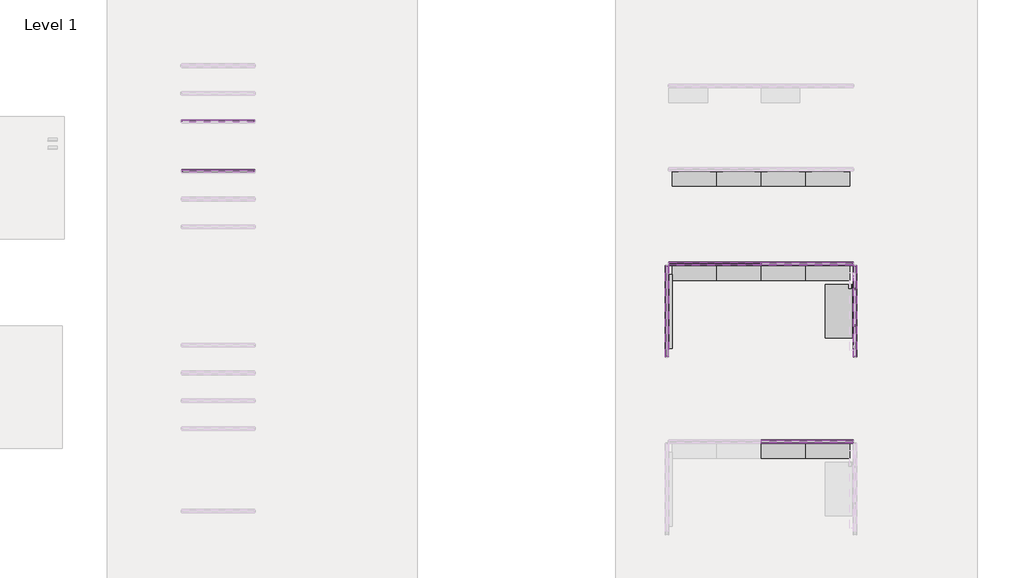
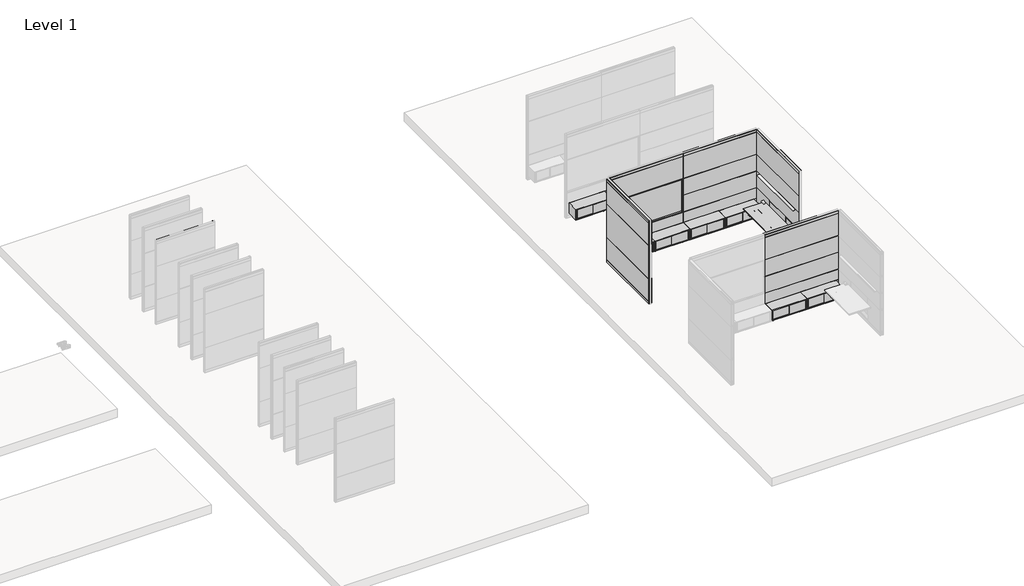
# One storey, part 11 of 13: 98 proxies, 12 furniture elements.
"""IFC4 building model written with IfcOpenShell, lengths in millimetres."""

from ifc_helpers import new_model, si_unit, origin, place, context, project, spatial, transform, mapped, element, save
from components import fascia_teknion_ceiling_and_base_ffb1_afe21305, fascia_teknion_ceiling_and_base_ffb1_896a0c16, fascia_teknion_ceiling_and_base_ffb1_9837481b, fascia_teknion_ceiling_and_base_ffb1_82e00885, fascia_teknion_ceiling_and_base_ffb1_6d2ad91a, frame_teknion_horizontal_rail_fkk_86cbbdfc, frame_teknion_horizontal_rail_fkk_8a89803d, frame_teknion_horizontal_rail_fkk_60f78dd7, frame_teknion_landscape_vertical_post_b621eeab, glass_fascia_b5f6f7ce, level_i_94c8ecd2, level_i_45b542d7, level_i_b17bdb42, level_i_0fad34de, level_i_c2499e2a, level_i_bottom_886b868d, level_i_top_2ca9f02e, level_ii_0c7391c9, level_ii_f53a0955, level_ii_e725a0b5, level_ii_bottom_2a449907, level_ii_bottom_6d1693ca, level_ii_bottom_ba8b9d30, level_iii_1ffc0a55, level_iii_4f8121dc, level_iii_edf6dfbd, level_iii_156669a2, level_iii_9491f67b, furniture_abd386d2, aluminum_shelf_4e7f8018, furniture_c8d8c331

model = new_model("IFC4")

# Units and contexts
model_context = context("Model", 3, world=origin())
ifc_project = project(units=[si_unit("LENGTHUNIT", "METRE", prefix="MILLI")], contexts=[model_context])

# Site, building, storey
site = spatial("IfcSite", under=ifc_project)
building = spatial("IfcBuilding", under=site)
storey = spatial("IfcBuildingStorey", under=building, Name="Level 1", Elevation=0.0)

# Proxies
placement = place(None, origin())
fascia_teknion_ceiling_and_base_ffb1_shape = fascia_teknion_ceiling_and_base_ffb1_afe21305(model_context)
element("IfcBuildingElementProxy", 1, Name="Fascia-Teknion-Ceiling_and_Base : FFB1", ObjectType="Fascia-Teknion-Ceiling_and_Base : FFB1", at=placement, inside=storey, context=model_context, shape_type="MappedRepresentation", body=[
    mapped(fascia_teknion_ceiling_and_base_ffb1_shape, transform((7469.8447863, 16032.4566297, 15.875), x_axis=(1.0, 0.0, 0.0), y_axis=(0.0, 1.0, 0.0), z_axis=(0.0, 0.0, 1.0))),
])
fascia_teknion_ceiling_and_base_ffb1_2_shape = fascia_teknion_ceiling_and_base_ffb1_896a0c16(model_context)
element("IfcBuildingElementProxy", 2, Name="Fascia-Teknion-Ceiling_and_Base : FFB1", ObjectType="Fascia-Teknion-Ceiling_and_Base : FFB1", at=placement, inside=storey, context=model_context, shape_type="MappedRepresentation", body=[
    mapped(fascia_teknion_ceiling_and_base_ffb1_2_shape, transform((21074.4289087, 13499.4866412, 15.875), x_axis=(1.0, 0.0, 0.0), y_axis=(0.0, 1.0, 0.0), z_axis=(0.0, 0.0, 1.0))),
])
element("IfcBuildingElementProxy", 3, Name="Fascia-Teknion-Ceiling_and_Base : FFB1", ObjectType="Fascia-Teknion-Ceiling_and_Base : FFB1", at=placement, inside=storey, context=model_context, shape_type="MappedRepresentation", body=[
    mapped(fascia_teknion_ceiling_and_base_ffb1_2_shape, transform((23600.439065, 13499.4866412, 15.875), x_axis=(1.0, 0.0, 0.0), y_axis=(0.0, 1.0, 0.0), z_axis=(0.0, 0.0, 1.0))),
])
element("IfcBuildingElementProxy", 4, Name="Fascia-Teknion-Ceiling_and_Base : FFB1", ObjectType="Fascia-Teknion-Ceiling_and_Base : FFB1", at=placement, inside=storey, context=model_context, shape_type="MappedRepresentation", body=[
    mapped(fascia_teknion_ceiling_and_base_ffb1_2_shape, transform((23600.439065, 8622.6866412, 15.875), x_axis=(1.0, 0.0, 0.0), y_axis=(0.0, 1.0, 0.0), z_axis=(0.0, 0.0, 1.0))),
])
fascia_teknion_ceiling_and_base_ffb1_3_shape = fascia_teknion_ceiling_and_base_ffb1_9837481b(model_context)
element("IfcBuildingElementProxy", 5, Name="Fascia-Teknion-Ceiling_and_Base : FFB1", ObjectType="Fascia-Teknion-Ceiling_and_Base : FFB1", at=placement, inside=storey, context=model_context, shape_type="MappedRepresentation", body=[
    mapped(fascia_teknion_ceiling_and_base_ffb1_3_shape, transform((21074.4289087, 13437.5106412, 15.875), x_axis=(1.0, 0.0, 0.0), y_axis=(0.0, 1.0, 0.0), z_axis=(0.0, 0.0, 1.0))),
])
element("IfcBuildingElementProxy", 6, Name="Fascia-Teknion-Ceiling_and_Base : FFB1", ObjectType="Fascia-Teknion-Ceiling_and_Base : FFB1", at=placement, inside=storey, context=model_context, shape_type="MappedRepresentation", body=[
    mapped(fascia_teknion_ceiling_and_base_ffb1_3_shape, transform((23600.439065, 13437.5106412, 15.875), x_axis=(1.0, 0.0, 0.0), y_axis=(0.0, 1.0, 0.0), z_axis=(0.0, 0.0, 1.0))),
])
element("IfcBuildingElementProxy", 7, Name="Fascia-Teknion-Ceiling_and_Base : FFB1", ObjectType="Fascia-Teknion-Ceiling_and_Base : FFB1", at=placement, inside=storey, context=model_context, shape_type="MappedRepresentation", body=[
    mapped(fascia_teknion_ceiling_and_base_ffb1_3_shape, transform((23600.439065, 8560.7106412, 15.875), x_axis=(1.0, 0.0, 0.0), y_axis=(0.0, 1.0, 0.0), z_axis=(0.0, 0.0, 1.0))),
])
fascia_teknion_ceiling_and_base_ffb1_4_shape = fascia_teknion_ceiling_and_base_ffb1_82e00885(model_context)
element("IfcBuildingElementProxy", 8, Name="Fascia-Teknion-Ceiling_and_Base : FFB1", ObjectType="Fascia-Teknion-Ceiling_and_Base : FFB1", at=placement, inside=storey, context=model_context, shape_type="MappedRepresentation", body=[
    mapped(fascia_teknion_ceiling_and_base_ffb1_4_shape, transform((24945.930591, 12160.9986407, 15.875), x_axis=(0.0, -1.0, 0.0), y_axis=(1.0, 0.0, 0.0), z_axis=(0.0, 0.0, 1.0))),
])
element("IfcBuildingElementProxy", 9, Name="Fascia-Teknion-Ceiling_and_Base : FFB1", ObjectType="Fascia-Teknion-Ceiling_and_Base : FFB1", at=placement, inside=storey, context=model_context, shape_type="MappedRepresentation", body=[
    mapped(fascia_teknion_ceiling_and_base_ffb1_4_shape, transform((19728.9373827, 12160.9986407, 15.875), x_axis=(0.0, 1.0, 0.0), y_axis=(-1.0, 0.0, 0.0), z_axis=(0.0, 0.0, 1.0))),
])
fascia_teknion_ceiling_and_base_ffb1_5_shape = fascia_teknion_ceiling_and_base_ffb1_6d2ad91a(model_context)
element("IfcBuildingElementProxy", 10, Name="Fascia-Teknion-Ceiling_and_Base : FFB1", ObjectType="Fascia-Teknion-Ceiling_and_Base : FFB1", at=placement, inside=storey, context=model_context, shape_type="MappedRepresentation", body=[
    mapped(fascia_teknion_ceiling_and_base_ffb1_5_shape, transform((24883.954591, 12160.9986407, 15.875), x_axis=(0.0, -1.0, 0.0), y_axis=(1.0, 0.0, 0.0), z_axis=(0.0, 0.0, 1.0))),
])
element("IfcBuildingElementProxy", 11, Name="Fascia-Teknion-Ceiling_and_Base : FFB1", ObjectType="Fascia-Teknion-Ceiling_and_Base : FFB1", at=placement, inside=storey, context=model_context, shape_type="MappedRepresentation", body=[
    mapped(fascia_teknion_ceiling_and_base_ffb1_5_shape, transform((19790.9133827, 12160.9986407, 15.875), x_axis=(0.0, 1.0, 0.0), y_axis=(-1.0, 0.0, 0.0), z_axis=(0.0, 0.0, 1.0))),
])
element("IfcBuildingElementProxy", 12, Name="Fascia-Teknion-Ceiling_and_Base : FFC", ObjectType="Fascia-Teknion-Ceiling_and_Base : FFC", at=placement, inside=storey, context=model_context, shape_type="MappedRepresentation", body=[
    mapped(fascia_teknion_ceiling_and_base_ffb1_shape, transform((7465.0427987, 17403.0599099, 2950.845), x_axis=(1.0, 0.0, 0.0), y_axis=(0.0, 1.0, 0.0), z_axis=(0.0, 0.0, 1.0))),
])
element("IfcBuildingElementProxy", 13, Name="Fascia-Teknion-Ceiling_and_Base : FFC", ObjectType="Fascia-Teknion-Ceiling_and_Base : FFC", at=placement, inside=storey, context=model_context, shape_type="MappedRepresentation", body=[
    mapped(fascia_teknion_ceiling_and_base_ffb1_shape, transform((7469.8447863, 16032.4566297, 2950.845), x_axis=(1.0, 0.0, 0.0), y_axis=(0.0, 1.0, 0.0), z_axis=(0.0, 0.0, 1.0))),
])
element("IfcBuildingElementProxy", 14, Name="Fascia-Teknion-Ceiling_and_Base : FFC", ObjectType="Fascia-Teknion-Ceiling_and_Base : FFC", at=placement, inside=storey, context=model_context, shape_type="MappedRepresentation", body=[
    mapped(fascia_teknion_ceiling_and_base_ffb1_2_shape, transform((21074.4289087, 13499.4866412, 2950.845), x_axis=(1.0, 0.0, 0.0), y_axis=(0.0, 1.0, 0.0), z_axis=(0.0, 0.0, 1.0))),
])
element("IfcBuildingElementProxy", 15, Name="Fascia-Teknion-Ceiling_and_Base : FFC", ObjectType="Fascia-Teknion-Ceiling_and_Base : FFC", at=placement, inside=storey, context=model_context, shape_type="MappedRepresentation", body=[
    mapped(fascia_teknion_ceiling_and_base_ffb1_2_shape, transform((23600.439065, 13499.4866412, 2950.845), x_axis=(1.0, 0.0, 0.0), y_axis=(0.0, 1.0, 0.0), z_axis=(0.0, 0.0, 1.0))),
])
element("IfcBuildingElementProxy", 16, Name="Fascia-Teknion-Ceiling_and_Base : FFC", ObjectType="Fascia-Teknion-Ceiling_and_Base : FFC", at=placement, inside=storey, context=model_context, shape_type="MappedRepresentation", body=[
    mapped(fascia_teknion_ceiling_and_base_ffb1_2_shape, transform((23600.439065, 8622.6866412, 2950.845), x_axis=(1.0, 0.0, 0.0), y_axis=(0.0, 1.0, 0.0), z_axis=(0.0, 0.0, 1.0))),
])
element("IfcBuildingElementProxy", 17, Name="Fascia-Teknion-Ceiling_and_Base : FFC", ObjectType="Fascia-Teknion-Ceiling_and_Base : FFC", at=placement, inside=storey, context=model_context, shape_type="MappedRepresentation", body=[
    mapped(fascia_teknion_ceiling_and_base_ffb1_3_shape, transform((21074.4289087, 13437.5106412, 2950.845), x_axis=(1.0, 0.0, 0.0), y_axis=(0.0, 1.0, 0.0), z_axis=(0.0, 0.0, 1.0))),
])
element("IfcBuildingElementProxy", 18, Name="Fascia-Teknion-Ceiling_and_Base : FFC", ObjectType="Fascia-Teknion-Ceiling_and_Base : FFC", at=placement, inside=storey, context=model_context, shape_type="MappedRepresentation", body=[
    mapped(fascia_teknion_ceiling_and_base_ffb1_3_shape, transform((23600.439065, 13437.5106412, 2950.845), x_axis=(1.0, 0.0, 0.0), y_axis=(0.0, 1.0, 0.0), z_axis=(0.0, 0.0, 1.0))),
])
element("IfcBuildingElementProxy", 19, Name="Fascia-Teknion-Ceiling_and_Base : FFC", ObjectType="Fascia-Teknion-Ceiling_and_Base : FFC", at=placement, inside=storey, context=model_context, shape_type="MappedRepresentation", body=[
    mapped(fascia_teknion_ceiling_and_base_ffb1_3_shape, transform((23600.439065, 8560.7106412, 2950.845), x_axis=(1.0, 0.0, 0.0), y_axis=(0.0, 1.0, 0.0), z_axis=(0.0, 0.0, 1.0))),
])
element("IfcBuildingElementProxy", 20, Name="Fascia-Teknion-Ceiling_and_Base : FFC", ObjectType="Fascia-Teknion-Ceiling_and_Base : FFC", at=placement, inside=storey, context=model_context, shape_type="MappedRepresentation", body=[
    mapped(fascia_teknion_ceiling_and_base_ffb1_4_shape, transform((24945.930591, 12160.9986407, 2950.845), x_axis=(0.0, -1.0, 0.0), y_axis=(1.0, 0.0, 0.0), z_axis=(0.0, 0.0, 1.0))),
])
element("IfcBuildingElementProxy", 21, Name="Fascia-Teknion-Ceiling_and_Base : FFC", ObjectType="Fascia-Teknion-Ceiling_and_Base : FFC", at=placement, inside=storey, context=model_context, shape_type="MappedRepresentation", body=[
    mapped(fascia_teknion_ceiling_and_base_ffb1_4_shape, transform((19728.9373827, 12160.9986407, 2950.845), x_axis=(0.0, 1.0, 0.0), y_axis=(-1.0, 0.0, 0.0), z_axis=(0.0, 0.0, 1.0))),
])
element("IfcBuildingElementProxy", 22, Name="Fascia-Teknion-Ceiling_and_Base : FFC", ObjectType="Fascia-Teknion-Ceiling_and_Base : FFC", at=placement, inside=storey, context=model_context, shape_type="MappedRepresentation", body=[
    mapped(fascia_teknion_ceiling_and_base_ffb1_5_shape, transform((24883.954591, 12160.9986407, 2950.845), x_axis=(0.0, -1.0, 0.0), y_axis=(1.0, 0.0, 0.0), z_axis=(0.0, 0.0, 1.0))),
])
element("IfcBuildingElementProxy", 23, Name="Fascia-Teknion-Ceiling_and_Base : FFC", ObjectType="Fascia-Teknion-Ceiling_and_Base : FFC", at=placement, inside=storey, context=model_context, shape_type="MappedRepresentation", body=[
    mapped(fascia_teknion_ceiling_and_base_ffb1_5_shape, transform((19790.9133827, 12160.9986407, 2950.845), x_axis=(0.0, 1.0, 0.0), y_axis=(-1.0, 0.0, 0.0), z_axis=(0.0, 0.0, 1.0))),
])
frame_teknion_horizontal_rail_fkk_shape = frame_teknion_horizontal_rail_fkk_86cbbdfc(model_context)
element("IfcBuildingElementProxy", 24, Name="Frame-Teknion-Horizontal_Rail : FKK", ObjectType="Frame-Teknion-Horizontal_Rail : FKK", at=placement, inside=storey, context=model_context, shape_type="MappedRepresentation", body=[
    mapped(frame_teknion_horizontal_rail_fkk_shape, transform((7465.0427987, 17372.0719099, 100.4514438), x_axis=(1.0, 0.0, 0.0), y_axis=(0.0, 1.0, 0.0), z_axis=(0.0, 0.0, 1.0))),
])
element("IfcBuildingElementProxy", 25, Name="Frame-Teknion-Horizontal_Rail : FKK", ObjectType="Frame-Teknion-Horizontal_Rail : FKK", at=placement, inside=storey, context=model_context, shape_type="MappedRepresentation", body=[
    mapped(frame_teknion_horizontal_rail_fkk_shape, transform((7465.0427987, 17372.0719099, 2947.5374437), x_axis=(1.0, 0.0, 0.0), y_axis=(0.0, 1.0, 0.0), z_axis=(0.0, 0.0, 1.0))),
])
element("IfcBuildingElementProxy", 26, Name="Frame-Teknion-Horizontal_Rail : FKK", ObjectType="Frame-Teknion-Horizontal_Rail : FKK", at=placement, inside=storey, context=model_context, shape_type="MappedRepresentation", body=[
    mapped(frame_teknion_horizontal_rail_fkk_shape, transform((7469.8447863, 16001.4686297, 100.4514438), x_axis=(1.0, 0.0, 0.0), y_axis=(0.0, 1.0, 0.0), z_axis=(0.0, 0.0, 1.0))),
])
element("IfcBuildingElementProxy", 27, Name="Frame-Teknion-Horizontal_Rail : FKK", ObjectType="Frame-Teknion-Horizontal_Rail : FKK", at=placement, inside=storey, context=model_context, shape_type="MappedRepresentation", body=[
    mapped(frame_teknion_horizontal_rail_fkk_shape, transform((7469.8447863, 16001.4686297, 2947.5374437), x_axis=(1.0, 0.0, 0.0), y_axis=(0.0, 1.0, 0.0), z_axis=(0.0, 0.0, 1.0))),
])
frame_teknion_horizontal_rail_fkk_2_shape = frame_teknion_horizontal_rail_fkk_8a89803d(model_context)
element("IfcBuildingElementProxy", 28, Name="Frame-Teknion-Horizontal_Rail : FKK", ObjectType="Frame-Teknion-Horizontal_Rail : FKK", at=placement, inside=storey, context=model_context, shape_type="MappedRepresentation", body=[
    mapped(frame_teknion_horizontal_rail_fkk_2_shape, transform((21074.4289087, 13468.4986412, 100.4514438), x_axis=(1.0, 0.0, 0.0), y_axis=(0.0, 1.0, 0.0), z_axis=(0.0, 0.0, 1.0))),
])
element("IfcBuildingElementProxy", 29, Name="Frame-Teknion-Horizontal_Rail : FKK", ObjectType="Frame-Teknion-Horizontal_Rail : FKK", at=placement, inside=storey, context=model_context, shape_type="MappedRepresentation", body=[
    mapped(frame_teknion_horizontal_rail_fkk_2_shape, transform((21074.4289087, 13468.4986412, 2947.5374437), x_axis=(1.0, 0.0, 0.0), y_axis=(0.0, 1.0, 0.0), z_axis=(0.0, 0.0, 1.0))),
])
element("IfcBuildingElementProxy", 30, Name="Frame-Teknion-Horizontal_Rail : FKK", ObjectType="Frame-Teknion-Horizontal_Rail : FKK", at=placement, inside=storey, context=model_context, shape_type="MappedRepresentation", body=[
    mapped(frame_teknion_horizontal_rail_fkk_2_shape, transform((23600.439065, 13468.4986412, 100.4514438), x_axis=(1.0, 0.0, 0.0), y_axis=(0.0, 1.0, 0.0), z_axis=(0.0, 0.0, 1.0))),
])
element("IfcBuildingElementProxy", 31, Name="Frame-Teknion-Horizontal_Rail : FKK", ObjectType="Frame-Teknion-Horizontal_Rail : FKK", at=placement, inside=storey, context=model_context, shape_type="MappedRepresentation", body=[
    mapped(frame_teknion_horizontal_rail_fkk_2_shape, transform((23600.439065, 13468.4986412, 2947.5374437), x_axis=(1.0, 0.0, 0.0), y_axis=(0.0, 1.0, 0.0), z_axis=(0.0, 0.0, 1.0))),
])
element("IfcBuildingElementProxy", 32, Name="Frame-Teknion-Horizontal_Rail : FKK", ObjectType="Frame-Teknion-Horizontal_Rail : FKK", at=placement, inside=storey, context=model_context, shape_type="MappedRepresentation", body=[
    mapped(frame_teknion_horizontal_rail_fkk_2_shape, transform((23600.439065, 8591.6986412, 100.4514438), x_axis=(1.0, 0.0, 0.0), y_axis=(0.0, 1.0, 0.0), z_axis=(0.0, 0.0, 1.0))),
])
element("IfcBuildingElementProxy", 33, Name="Frame-Teknion-Horizontal_Rail : FKK", ObjectType="Frame-Teknion-Horizontal_Rail : FKK", at=placement, inside=storey, context=model_context, shape_type="MappedRepresentation", body=[
    mapped(frame_teknion_horizontal_rail_fkk_2_shape, transform((23600.439065, 8591.6986412, 2947.5374437), x_axis=(1.0, 0.0, 0.0), y_axis=(0.0, 1.0, 0.0), z_axis=(0.0, 0.0, 1.0))),
])
frame_teknion_horizontal_rail_fkk_3_shape = frame_teknion_horizontal_rail_fkk_60f78dd7(model_context)
element("IfcBuildingElementProxy", 34, Name="Frame-Teknion-Horizontal_Rail : FKK", ObjectType="Frame-Teknion-Horizontal_Rail : FKK", at=placement, inside=storey, context=model_context, shape_type="MappedRepresentation", body=[
    mapped(frame_teknion_horizontal_rail_fkk_3_shape, transform((24914.942591, 12160.9986407, 100.4514438), x_axis=(0.0, -1.0, 0.0), y_axis=(1.0, 0.0, 0.0), z_axis=(0.0, 0.0, 1.0))),
])
element("IfcBuildingElementProxy", 35, Name="Frame-Teknion-Horizontal_Rail : FKK", ObjectType="Frame-Teknion-Horizontal_Rail : FKK", at=placement, inside=storey, context=model_context, shape_type="MappedRepresentation", body=[
    mapped(frame_teknion_horizontal_rail_fkk_3_shape, transform((24914.942591, 12160.9986407, 2947.5374437), x_axis=(0.0, -1.0, 0.0), y_axis=(1.0, 0.0, 0.0), z_axis=(0.0, 0.0, 1.0))),
])
element("IfcBuildingElementProxy", 36, Name="Frame-Teknion-Horizontal_Rail : FKK", ObjectType="Frame-Teknion-Horizontal_Rail : FKK", at=placement, inside=storey, context=model_context, shape_type="MappedRepresentation", body=[
    mapped(frame_teknion_horizontal_rail_fkk_3_shape, transform((19759.9253827, 12160.9986407, 100.4514438), x_axis=(0.0, 1.0, 0.0), y_axis=(-1.0, 0.0, 0.0), z_axis=(0.0, 0.0, 1.0))),
])
element("IfcBuildingElementProxy", 37, Name="Frame-Teknion-Horizontal_Rail : FKK", ObjectType="Frame-Teknion-Horizontal_Rail : FKK", at=placement, inside=storey, context=model_context, shape_type="MappedRepresentation", body=[
    mapped(frame_teknion_horizontal_rail_fkk_3_shape, transform((19759.9253827, 12160.9986407, 2947.5374437), x_axis=(0.0, 1.0, 0.0), y_axis=(-1.0, 0.0, 0.0), z_axis=(0.0, 0.0, 1.0))),
])
element("IfcBuildingElementProxy", 38, Name="Frame-Teknion-Landscape_Horizontal_Rail : FLKH", ObjectType="Frame-Teknion-Landscape_Horizontal_Rail : FLKH", at=placement, inside=storey, context=model_context, shape_type="MappedRepresentation", body=[
    mapped(frame_teknion_horizontal_rail_fkk_shape, transform((7465.0427987, 17372.0719099, 917.575), x_axis=(1.0, 0.0, 0.0), y_axis=(0.0, 1.0, 0.0), z_axis=(0.0, 0.0, 1.0))),
])
element("IfcBuildingElementProxy", 39, Name="Frame-Teknion-Landscape_Horizontal_Rail : FLKH", ObjectType="Frame-Teknion-Landscape_Horizontal_Rail : FLKH", at=placement, inside=storey, context=model_context, shape_type="MappedRepresentation", body=[
    mapped(frame_teknion_horizontal_rail_fkk_shape, transform((7465.0427987, 17372.0719099, 2136.775), x_axis=(1.0, 0.0, 0.0), y_axis=(0.0, 1.0, 0.0), z_axis=(0.0, 0.0, 1.0))),
])
element("IfcBuildingElementProxy", 40, Name="Frame-Teknion-Landscape_Horizontal_Rail : FLKH", ObjectType="Frame-Teknion-Landscape_Horizontal_Rail : FLKH", at=placement, inside=storey, context=model_context, shape_type="MappedRepresentation", body=[
    mapped(frame_teknion_horizontal_rail_fkk_shape, transform((7469.8447863, 16001.4686297, 917.575), x_axis=(1.0, 0.0, 0.0), y_axis=(0.0, 1.0, 0.0), z_axis=(0.0, 0.0, 1.0))),
])
element("IfcBuildingElementProxy", 41, Name="Frame-Teknion-Landscape_Horizontal_Rail : FLKH", ObjectType="Frame-Teknion-Landscape_Horizontal_Rail : FLKH", at=placement, inside=storey, context=model_context, shape_type="MappedRepresentation", body=[
    mapped(frame_teknion_horizontal_rail_fkk_shape, transform((7469.8447863, 16001.4686297, 2136.775), x_axis=(1.0, 0.0, 0.0), y_axis=(0.0, 1.0, 0.0), z_axis=(0.0, 0.0, 1.0))),
])
element("IfcBuildingElementProxy", 42, Name="Frame-Teknion-Landscape_Horizontal_Rail : FLKH", ObjectType="Frame-Teknion-Landscape_Horizontal_Rail : FLKH", at=placement, inside=storey, context=model_context, shape_type="MappedRepresentation", body=[
    mapped(frame_teknion_horizontal_rail_fkk_2_shape, transform((21074.4289087, 13468.4986412, 917.575), x_axis=(1.0, 0.0, 0.0), y_axis=(0.0, 1.0, 0.0), z_axis=(0.0, 0.0, 1.0))),
])
element("IfcBuildingElementProxy", 43, Name="Frame-Teknion-Landscape_Horizontal_Rail : FLKH", ObjectType="Frame-Teknion-Landscape_Horizontal_Rail : FLKH", at=placement, inside=storey, context=model_context, shape_type="MappedRepresentation", body=[
    mapped(frame_teknion_horizontal_rail_fkk_2_shape, transform((21074.4289087, 13468.4986412, 2136.775), x_axis=(1.0, 0.0, 0.0), y_axis=(0.0, 1.0, 0.0), z_axis=(0.0, 0.0, 1.0))),
])
element("IfcBuildingElementProxy", 44, Name="Frame-Teknion-Landscape_Horizontal_Rail : FLKH", ObjectType="Frame-Teknion-Landscape_Horizontal_Rail : FLKH", at=placement, inside=storey, context=model_context, shape_type="MappedRepresentation", body=[
    mapped(frame_teknion_horizontal_rail_fkk_2_shape, transform((23600.439065, 13468.4986412, 917.575), x_axis=(1.0, 0.0, 0.0), y_axis=(0.0, 1.0, 0.0), z_axis=(0.0, 0.0, 1.0))),
])
element("IfcBuildingElementProxy", 45, Name="Frame-Teknion-Landscape_Horizontal_Rail : FLKH", ObjectType="Frame-Teknion-Landscape_Horizontal_Rail : FLKH", at=placement, inside=storey, context=model_context, shape_type="MappedRepresentation", body=[
    mapped(frame_teknion_horizontal_rail_fkk_2_shape, transform((23600.439065, 13468.4986412, 2136.775), x_axis=(1.0, 0.0, 0.0), y_axis=(0.0, 1.0, 0.0), z_axis=(0.0, 0.0, 1.0))),
])
element("IfcBuildingElementProxy", 46, Name="Frame-Teknion-Landscape_Horizontal_Rail : FLKH", ObjectType="Frame-Teknion-Landscape_Horizontal_Rail : FLKH", at=placement, inside=storey, context=model_context, shape_type="MappedRepresentation", body=[
    mapped(frame_teknion_horizontal_rail_fkk_2_shape, transform((21074.4289087, 13468.4986412, 536.575), x_axis=(1.0, 0.0, 0.0), y_axis=(0.0, 1.0, 0.0), z_axis=(0.0, 0.0, 1.0))),
])
element("IfcBuildingElementProxy", 47, Name="Frame-Teknion-Landscape_Horizontal_Rail : FLKH", ObjectType="Frame-Teknion-Landscape_Horizontal_Rail : FLKH", at=placement, inside=storey, context=model_context, shape_type="MappedRepresentation", body=[
    mapped(frame_teknion_horizontal_rail_fkk_2_shape, transform((23600.439065, 13468.4986412, 536.575), x_axis=(1.0, 0.0, 0.0), y_axis=(0.0, 1.0, 0.0), z_axis=(0.0, 0.0, 1.0))),
])
element("IfcBuildingElementProxy", 48, Name="Frame-Teknion-Landscape_Horizontal_Rail : FLKH", ObjectType="Frame-Teknion-Landscape_Horizontal_Rail : FLKH", at=placement, inside=storey, context=model_context, shape_type="MappedRepresentation", body=[
    mapped(frame_teknion_horizontal_rail_fkk_2_shape, transform((23600.439065, 8591.6986412, 536.575), x_axis=(1.0, 0.0, 0.0), y_axis=(0.0, 1.0, 0.0), z_axis=(0.0, 0.0, 1.0))),
])
element("IfcBuildingElementProxy", 49, Name="Frame-Teknion-Landscape_Horizontal_Rail : FLKH", ObjectType="Frame-Teknion-Landscape_Horizontal_Rail : FLKH", at=placement, inside=storey, context=model_context, shape_type="MappedRepresentation", body=[
    mapped(frame_teknion_horizontal_rail_fkk_2_shape, transform((23600.439065, 13468.4986412, 1527.175), x_axis=(1.0, 0.0, 0.0), y_axis=(0.0, 1.0, 0.0), z_axis=(0.0, 0.0, 1.0))),
])
element("IfcBuildingElementProxy", 50, Name="Frame-Teknion-Landscape_Horizontal_Rail : FLKH", ObjectType="Frame-Teknion-Landscape_Horizontal_Rail : FLKH", at=placement, inside=storey, context=model_context, shape_type="MappedRepresentation", body=[
    mapped(frame_teknion_horizontal_rail_fkk_2_shape, transform((23600.439065, 8591.6986412, 1527.175), x_axis=(1.0, 0.0, 0.0), y_axis=(0.0, 1.0, 0.0), z_axis=(0.0, 0.0, 1.0))),
])
element("IfcBuildingElementProxy", 51, Name="Frame-Teknion-Landscape_Horizontal_Rail : FLKH", ObjectType="Frame-Teknion-Landscape_Horizontal_Rail : FLKH", at=placement, inside=storey, context=model_context, shape_type="MappedRepresentation", body=[
    mapped(frame_teknion_horizontal_rail_fkk_3_shape, transform((24914.942591, 12160.9986407, 917.575), x_axis=(0.0, -1.0, 0.0), y_axis=(1.0, 0.0, 0.0), z_axis=(0.0, 0.0, 1.0))),
])
element("IfcBuildingElementProxy", 52, Name="Frame-Teknion-Landscape_Horizontal_Rail : FLKH", ObjectType="Frame-Teknion-Landscape_Horizontal_Rail : FLKH", at=placement, inside=storey, context=model_context, shape_type="MappedRepresentation", body=[
    mapped(frame_teknion_horizontal_rail_fkk_3_shape, transform((24914.942591, 12160.9986407, 2136.775), x_axis=(0.0, -1.0, 0.0), y_axis=(1.0, 0.0, 0.0), z_axis=(0.0, 0.0, 1.0))),
])
element("IfcBuildingElementProxy", 53, Name="Frame-Teknion-Landscape_Horizontal_Rail : FLKH", ObjectType="Frame-Teknion-Landscape_Horizontal_Rail : FLKH", at=placement, inside=storey, context=model_context, shape_type="MappedRepresentation", body=[
    mapped(frame_teknion_horizontal_rail_fkk_3_shape, transform((19759.9253827, 12160.9986407, 917.575), x_axis=(0.0, 1.0, 0.0), y_axis=(-1.0, 0.0, 0.0), z_axis=(0.0, 0.0, 1.0))),
])
element("IfcBuildingElementProxy", 54, Name="Frame-Teknion-Landscape_Horizontal_Rail : FLKH", ObjectType="Frame-Teknion-Landscape_Horizontal_Rail : FLKH", at=placement, inside=storey, context=model_context, shape_type="MappedRepresentation", body=[
    mapped(frame_teknion_horizontal_rail_fkk_3_shape, transform((19759.9253827, 12160.9986407, 2136.775), x_axis=(0.0, 1.0, 0.0), y_axis=(-1.0, 0.0, 0.0), z_axis=(0.0, 0.0, 1.0))),
])
element("IfcBuildingElementProxy", 55, Name="Frame-Teknion-Landscape_Horizontal_Rail : FLKH", ObjectType="Frame-Teknion-Landscape_Horizontal_Rail : FLKH", at=placement, inside=storey, context=model_context, shape_type="MappedRepresentation", body=[
    mapped(frame_teknion_horizontal_rail_fkk_3_shape, transform((24914.942591, 12160.9986407, 1527.175), x_axis=(0.0, -1.0, 0.0), y_axis=(1.0, 0.0, 0.0), z_axis=(0.0, 0.0, 1.0))),
])
frame_teknion_landscape_vertical_post_shape = frame_teknion_landscape_vertical_post_b621eeab(model_context)
element("IfcBuildingElementProxy", 56, Name="Frame-Teknion-Landscape_Vertical_Post : FLKV", ObjectType="Frame-Teknion-Landscape_Vertical_Post : FLKV", at=placement, inside=storey, context=model_context, shape_type="MappedRepresentation", body=[
    mapped(frame_teknion_landscape_vertical_post_shape, transform((24914.942591, 12772.1734407, 15.875), x_axis=(0.0, 1.0000000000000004, 0.0), y_axis=(-1.0000000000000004, 0.0, 0.0), z_axis=(0.0, 0.0, 1.0))),
])
element("IfcBuildingElementProxy", 57, Name="Frame-Teknion-Landscape_Vertical_Post : FLKV", ObjectType="Frame-Teknion-Landscape_Vertical_Post : FLKV", at=placement, inside=storey, context=model_context, shape_type="MappedRepresentation", body=[
    mapped(frame_teknion_landscape_vertical_post_shape, transform((24914.942591, 12543.5734407, 15.875), x_axis=(0.0, 1.0000000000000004, 0.0), y_axis=(-1.0000000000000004, 0.0, 0.0), z_axis=(0.0, 0.0, 1.0))),
])
element("IfcBuildingElementProxy", 58, Name="Frame-Teknion-Landscape_Vertical_Post : FLKV", ObjectType="Frame-Teknion-Landscape_Vertical_Post : FLKV", at=placement, inside=storey, context=model_context, shape_type="MappedRepresentation", body=[
    mapped(frame_teknion_landscape_vertical_post_shape, transform((24914.942591, 11778.4238407, 15.875), x_axis=(0.0, 1.0000000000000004, 0.0), y_axis=(-1.0000000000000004, 0.0, 0.0), z_axis=(0.0, 0.0, 1.0))),
])
element("IfcBuildingElementProxy", 59, Name="Frame-Teknion-Landscape_Vertical_Post : FLKV", ObjectType="Frame-Teknion-Landscape_Vertical_Post : FLKV", at=placement, inside=storey, context=model_context, shape_type="MappedRepresentation", body=[
    mapped(frame_teknion_landscape_vertical_post_shape, transform((24914.942591, 11549.8238407, 15.875), x_axis=(0.0, 1.0000000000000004, 0.0), y_axis=(-1.0000000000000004, 0.0, 0.0), z_axis=(0.0, 0.0, 1.0))),
])
glass_fascia_shape = glass_fascia_b5f6f7ce(model_context)
element("IfcBuildingElementProxy", 60, Name="Panel-Fascia-Teknion-Altos-Glass : Glass Fascia", ObjectType="Panel-Fascia-Teknion-Altos-Glass : Glass Fascia", at=placement, inside=storey, context=model_context, shape_type="MappedRepresentation", body=[
    mapped(glass_fascia_shape, transform((21074.4289087, 13468.5165006, 917.575), x_axis=(1.0, 0.0, 0.0), y_axis=(0.0, 1.0, 0.0), z_axis=(0.0, 0.0, 1.0))),
])
level_i_shape = level_i_94c8ecd2(model_context)
element("IfcBuildingElementProxy", 61, Name="Panel-Fascia-Teknion-Altos-Landscape_Desk : Level I", ObjectType="Panel-Fascia-Teknion-Altos-Landscape_Desk : Level I", at=placement, inside=storey, context=model_context, shape_type="MappedRepresentation", body=[
    mapped(level_i_shape, transform((24874.429591, 12160.9986407, 100.457), x_axis=(0.0, -1.0, 0.0), y_axis=(1.0, 0.0, 0.0), z_axis=(0.0, 0.0, 1.0))),
])
level_i_2_shape = level_i_45b542d7(model_context)
element("IfcBuildingElementProxy", 62, Name="Panel-Fascia-Teknion-Altos-Landscape : Level I", ObjectType="Panel-Fascia-Teknion-Altos-Landscape : Level I", at=placement, inside=storey, context=model_context, shape_type="MappedRepresentation", body=[
    mapped(level_i_2_shape, transform((7469.8447863, 16041.9816297, 100.457), x_axis=(1.0, 0.0, 0.0), y_axis=(0.0, 1.0, 0.0), z_axis=(0.0, 0.0, 1.0))),
])
level_i_3_shape = level_i_b17bdb42(model_context)
element("IfcBuildingElementProxy", 63, Name="Panel-Fascia-Teknion-Altos-Landscape : Level I", ObjectType="Panel-Fascia-Teknion-Altos-Landscape : Level I", at=placement, inside=storey, context=model_context, shape_type="MappedRepresentation", body=[
    mapped(level_i_3_shape, transform((21074.4289087, 13509.0116412, 100.457), x_axis=(1.0, 0.0, 0.0), y_axis=(0.0, 1.0, 0.0), z_axis=(0.0, 0.0, 1.0))),
])
element("IfcBuildingElementProxy", 64, Name="Panel-Fascia-Teknion-Altos-Landscape : Level I", ObjectType="Panel-Fascia-Teknion-Altos-Landscape : Level I", at=placement, inside=storey, context=model_context, shape_type="MappedRepresentation", body=[
    mapped(level_i_3_shape, transform((23600.439065, 13509.0116412, 100.457), x_axis=(1.0, 0.0, 0.0), y_axis=(0.0, 1.0, 0.0), z_axis=(0.0, 0.0, 1.0))),
])
element("IfcBuildingElementProxy", 65, Name="Panel-Fascia-Teknion-Altos-Landscape : Level I", ObjectType="Panel-Fascia-Teknion-Altos-Landscape : Level I", at=placement, inside=storey, context=model_context, shape_type="MappedRepresentation", body=[
    mapped(level_i_3_shape, transform((23600.439065, 8632.2116412, 100.457), x_axis=(1.0, 0.0, 0.0), y_axis=(0.0, 1.0, 0.0), z_axis=(0.0, 0.0, 1.0))),
])
level_i_4_shape = level_i_0fad34de(model_context)
element("IfcBuildingElementProxy", 66, Name="Panel-Fascia-Teknion-Altos-Landscape : Level I", ObjectType="Panel-Fascia-Teknion-Altos-Landscape : Level I", at=placement, inside=storey, context=model_context, shape_type="MappedRepresentation", body=[
    mapped(level_i_4_shape, transform((24955.455591, 12160.9986407, 100.457), x_axis=(0.0, -1.0, 0.0), y_axis=(1.0, 0.0, 0.0), z_axis=(0.0, 0.0, 1.0))),
])
element("IfcBuildingElementProxy", 67, Name="Panel-Fascia-Teknion-Altos-Landscape : Level I", ObjectType="Panel-Fascia-Teknion-Altos-Landscape : Level I", at=placement, inside=storey, context=model_context, shape_type="MappedRepresentation", body=[
    mapped(level_i_4_shape, transform((19719.4123827, 12160.9986407, 100.457), x_axis=(0.0, 1.0, 0.0), y_axis=(-1.0, 0.0, 0.0), z_axis=(0.0, 0.0, 1.0))),
])
level_i_5_shape = level_i_c2499e2a(model_context)
element("IfcBuildingElementProxy", 68, Name="Panel-Fascia-Teknion-Altos-Landscape : Level I", ObjectType="Panel-Fascia-Teknion-Altos-Landscape : Level I", at=placement, inside=storey, context=model_context, shape_type="MappedRepresentation", body=[
    mapped(level_i_5_shape, transform((19800.4383827, 12160.9986407, 100.457), x_axis=(0.0, 1.0, 0.0), y_axis=(-1.0, 0.0, 0.0), z_axis=(0.0, 0.0, 1.0))),
])
level_i_bottom_shape = level_i_bottom_886b868d(model_context)
element("IfcBuildingElementProxy", 69, Name="Panel-Fascia-Teknion-Altos-Landscape : Level I Bottom", ObjectType="Panel-Fascia-Teknion-Altos-Landscape : Level I Bottom", at=placement, inside=storey, context=model_context, shape_type="MappedRepresentation", body=[
    mapped(level_i_bottom_shape, transform((21074.4289087, 13427.9856412, 100.457), x_axis=(1.0, 0.0, 0.0), y_axis=(0.0, 1.0, 0.0), z_axis=(0.0, 0.0, 1.0))),
])
element("IfcBuildingElementProxy", 70, Name="Panel-Fascia-Teknion-Altos-Landscape : Level I Bottom", ObjectType="Panel-Fascia-Teknion-Altos-Landscape : Level I Bottom", at=placement, inside=storey, context=model_context, shape_type="MappedRepresentation", body=[
    mapped(level_i_bottom_shape, transform((23600.439065, 13427.9856412, 100.457), x_axis=(1.0, 0.0, 0.0), y_axis=(0.0, 1.0, 0.0), z_axis=(0.0, 0.0, 1.0))),
])
element("IfcBuildingElementProxy", 71, Name="Panel-Fascia-Teknion-Altos-Landscape : Level I Bottom", ObjectType="Panel-Fascia-Teknion-Altos-Landscape : Level I Bottom", at=placement, inside=storey, context=model_context, shape_type="MappedRepresentation", body=[
    mapped(level_i_bottom_shape, transform((23600.439065, 8551.1856412, 100.457), x_axis=(1.0, 0.0, 0.0), y_axis=(0.0, 1.0, 0.0), z_axis=(0.0, 0.0, 1.0))),
])
level_i_top_shape = level_i_top_2ca9f02e(model_context)
element("IfcBuildingElementProxy", 72, Name="Panel-Fascia-Teknion-Altos-Landscape : Level I Top", ObjectType="Panel-Fascia-Teknion-Altos-Landscape : Level I Top", at=placement, inside=storey, context=model_context, shape_type="MappedRepresentation", body=[
    mapped(level_i_top_shape, transform((21074.4289087, 13427.9856412, 536.575), x_axis=(1.0, 0.0, 0.0), y_axis=(0.0, 1.0, 0.0), z_axis=(0.0, 0.0, 1.0))),
])
element("IfcBuildingElementProxy", 73, Name="Panel-Fascia-Teknion-Altos-Landscape : Level I Top", ObjectType="Panel-Fascia-Teknion-Altos-Landscape : Level I Top", at=placement, inside=storey, context=model_context, shape_type="MappedRepresentation", body=[
    mapped(level_i_top_shape, transform((23600.439065, 13427.9856412, 536.575), x_axis=(1.0, 0.0, 0.0), y_axis=(0.0, 1.0, 0.0), z_axis=(0.0, 0.0, 1.0))),
])
element("IfcBuildingElementProxy", 74, Name="Panel-Fascia-Teknion-Altos-Landscape : Level I Top", ObjectType="Panel-Fascia-Teknion-Altos-Landscape : Level I Top", at=placement, inside=storey, context=model_context, shape_type="MappedRepresentation", body=[
    mapped(level_i_top_shape, transform((23600.439065, 8551.1856412, 536.575), x_axis=(1.0, 0.0, 0.0), y_axis=(0.0, 1.0, 0.0), z_axis=(0.0, 0.0, 1.0))),
])
level_ii_shape = level_ii_0c7391c9(model_context)
element("IfcBuildingElementProxy", 75, Name="Panel-Fascia-Teknion-Altos-Landscape : Level II", ObjectType="Panel-Fascia-Teknion-Altos-Landscape : Level II", at=placement, inside=storey, context=model_context, shape_type="MappedRepresentation", body=[
    mapped(level_ii_shape, transform((7469.8447863, 16041.9816297, 917.575), x_axis=(1.0, 0.0, 0.0), y_axis=(0.0, 1.0, 0.0), z_axis=(0.0, 0.0, 1.0))),
])
level_ii_2_shape = level_ii_f53a0955(model_context)
element("IfcBuildingElementProxy", 76, Name="Panel-Fascia-Teknion-Altos-Landscape : Level II", ObjectType="Panel-Fascia-Teknion-Altos-Landscape : Level II", at=placement, inside=storey, context=model_context, shape_type="MappedRepresentation", body=[
    mapped(level_ii_2_shape, transform((23600.439065, 13509.0116412, 917.575), x_axis=(1.0, 0.0, 0.0), y_axis=(0.0, 1.0, 0.0), z_axis=(0.0, 0.0, 1.0))),
])
level_ii_3_shape = level_ii_e725a0b5(model_context)
element("IfcBuildingElementProxy", 77, Name="Panel-Fascia-Teknion-Altos-Landscape : Level II", ObjectType="Panel-Fascia-Teknion-Altos-Landscape : Level II", at=placement, inside=storey, context=model_context, shape_type="MappedRepresentation", body=[
    mapped(level_ii_3_shape, transform((24955.455591, 12160.9986407, 917.575), x_axis=(0.0, -1.0, 0.0), y_axis=(1.0, 0.0, 0.0), z_axis=(0.0, 0.0, 1.0))),
])
element("IfcBuildingElementProxy", 78, Name="Panel-Fascia-Teknion-Altos-Landscape : Level II", ObjectType="Panel-Fascia-Teknion-Altos-Landscape : Level II", at=placement, inside=storey, context=model_context, shape_type="MappedRepresentation", body=[
    mapped(level_ii_3_shape, transform((19719.4123827, 12160.9986407, 917.575), x_axis=(0.0, 1.0, 0.0), y_axis=(-1.0, 0.0, 0.0), z_axis=(0.0, 0.0, 1.0))),
])
level_ii_bottom_shape = level_ii_bottom_2a449907(model_context)
element("IfcBuildingElementProxy", 79, Name="Panel-Fascia-Teknion-Altos-Landscape : Level II Bottom", ObjectType="Panel-Fascia-Teknion-Altos-Landscape : Level II Bottom", at=placement, inside=storey, context=model_context, shape_type="MappedRepresentation", body=[
    mapped(level_ii_bottom_shape, transform((24874.429591, 12160.9986407, 917.575), x_axis=(0.0, -1.0, 0.0), y_axis=(1.0, 0.0, 0.0), z_axis=(0.0, 0.0, 1.0))),
])
level_ii_bottom_2_shape = level_ii_bottom_6d1693ca(model_context)
element("IfcBuildingElementProxy", 80, Name="Panel-Fascia-Teknion-Altos-Landscape : Level II Bottom", ObjectType="Panel-Fascia-Teknion-Altos-Landscape : Level II Bottom", at=placement, inside=storey, context=model_context, shape_type="MappedRepresentation", body=[
    mapped(level_ii_bottom_2_shape, transform((23600.439065, 13427.9856412, 917.575), x_axis=(1.0, 0.0, 0.0), y_axis=(0.0, 1.0, 0.0), z_axis=(0.0, 0.0, 1.0))),
])
element("IfcBuildingElementProxy", 81, Name="Panel-Fascia-Teknion-Altos-Landscape : Level II Bottom", ObjectType="Panel-Fascia-Teknion-Altos-Landscape : Level II Bottom", at=placement, inside=storey, context=model_context, shape_type="MappedRepresentation", body=[
    mapped(level_ii_bottom_2_shape, transform((23600.439065, 8551.1856412, 917.575), x_axis=(1.0, 0.0, 0.0), y_axis=(0.0, 1.0, 0.0), z_axis=(0.0, 0.0, 1.0))),
])
level_ii_bottom_3_shape = level_ii_bottom_ba8b9d30(model_context)
element("IfcBuildingElementProxy", 82, Name="Panel-Fascia-Teknion-Altos-Landscape : Level II Bottom", ObjectType="Panel-Fascia-Teknion-Altos-Landscape : Level II Bottom", at=placement, inside=storey, context=model_context, shape_type="MappedRepresentation", body=[
    mapped(level_ii_bottom_3_shape, transform((23600.439065, 8632.2116412, 917.575), x_axis=(1.0, 0.0, 0.0), y_axis=(0.0, 1.0, 0.0), z_axis=(0.0, 0.0, 1.0))),
])
element("IfcBuildingElementProxy", 83, Name="Panel-Fascia-Teknion-Altos-Landscape : Level II Top", ObjectType="Panel-Fascia-Teknion-Altos-Landscape : Level II Top", at=placement, inside=storey, context=model_context, shape_type="MappedRepresentation", body=[
    mapped(level_ii_bottom_shape, transform((24874.429591, 12160.9986407, 1527.175), x_axis=(0.0, -1.0, 0.0), y_axis=(1.0, 0.0, 0.0), z_axis=(0.0, 0.0, 1.0))),
])
element("IfcBuildingElementProxy", 84, Name="Panel-Fascia-Teknion-Altos-Landscape : Level II Top", ObjectType="Panel-Fascia-Teknion-Altos-Landscape : Level II Top", at=placement, inside=storey, context=model_context, shape_type="MappedRepresentation", body=[
    mapped(level_ii_bottom_2_shape, transform((23600.439065, 13427.9856412, 1527.175), x_axis=(1.0, 0.0, 0.0), y_axis=(0.0, 1.0, 0.0), z_axis=(0.0, 0.0, 1.0))),
])
element("IfcBuildingElementProxy", 85, Name="Panel-Fascia-Teknion-Altos-Landscape : Level II Top", ObjectType="Panel-Fascia-Teknion-Altos-Landscape : Level II Top", at=placement, inside=storey, context=model_context, shape_type="MappedRepresentation", body=[
    mapped(level_ii_bottom_2_shape, transform((23600.439065, 8551.1856412, 1527.175), x_axis=(1.0, 0.0, 0.0), y_axis=(0.0, 1.0, 0.0), z_axis=(0.0, 0.0, 1.0))),
])
element("IfcBuildingElementProxy", 86, Name="Panel-Fascia-Teknion-Altos-Landscape : Level II Top", ObjectType="Panel-Fascia-Teknion-Altos-Landscape : Level II Top", at=placement, inside=storey, context=model_context, shape_type="MappedRepresentation", body=[
    mapped(level_ii_bottom_3_shape, transform((23600.439065, 8632.2116412, 1527.175), x_axis=(1.0, 0.0, 0.0), y_axis=(0.0, 1.0, 0.0), z_axis=(0.0, 0.0, 1.0))),
])
level_iii_shape = level_iii_1ffc0a55(model_context)
element("IfcBuildingElementProxy", 87, Name="Panel-Fascia-Teknion-Altos-Landscape : Level III", ObjectType="Panel-Fascia-Teknion-Altos-Landscape : Level III", at=placement, inside=storey, context=model_context, shape_type="MappedRepresentation", body=[
    mapped(level_iii_shape, transform((7465.0427987, 17412.5849099, 2136.775), x_axis=(1.0, 0.0, 0.0), y_axis=(0.0, 1.0, 0.0), z_axis=(0.0, 0.0, 1.0))),
])
element("IfcBuildingElementProxy", 88, Name="Panel-Fascia-Teknion-Altos-Landscape : Level III", ObjectType="Panel-Fascia-Teknion-Altos-Landscape : Level III", at=placement, inside=storey, context=model_context, shape_type="MappedRepresentation", body=[
    mapped(level_iii_shape, transform((7469.8447863, 16041.9816297, 2136.775), x_axis=(1.0, 0.0, 0.0), y_axis=(0.0, 1.0, 0.0), z_axis=(0.0, 0.0, 1.0))),
])
level_iii_2_shape = level_iii_4f8121dc(model_context)
element("IfcBuildingElementProxy", 89, Name="Panel-Fascia-Teknion-Altos-Landscape : Level III", ObjectType="Panel-Fascia-Teknion-Altos-Landscape : Level III", at=placement, inside=storey, context=model_context, shape_type="MappedRepresentation", body=[
    mapped(level_iii_2_shape, transform((21074.4289087, 13509.0116412, 2136.775), x_axis=(1.0, 0.0, 0.0), y_axis=(0.0, 1.0, 0.0), z_axis=(0.0, 0.0, 1.0))),
])
element("IfcBuildingElementProxy", 90, Name="Panel-Fascia-Teknion-Altos-Landscape : Level III", ObjectType="Panel-Fascia-Teknion-Altos-Landscape : Level III", at=placement, inside=storey, context=model_context, shape_type="MappedRepresentation", body=[
    mapped(level_iii_2_shape, transform((23600.439065, 13509.0116412, 2136.775), x_axis=(1.0, 0.0, 0.0), y_axis=(0.0, 1.0, 0.0), z_axis=(0.0, 0.0, 1.0))),
])
element("IfcBuildingElementProxy", 91, Name="Panel-Fascia-Teknion-Altos-Landscape : Level III", ObjectType="Panel-Fascia-Teknion-Altos-Landscape : Level III", at=placement, inside=storey, context=model_context, shape_type="MappedRepresentation", body=[
    mapped(level_iii_2_shape, transform((23600.439065, 8632.2116412, 2136.775), x_axis=(1.0, 0.0, 0.0), y_axis=(0.0, 1.0, 0.0), z_axis=(0.0, 0.0, 1.0))),
])
level_iii_3_shape = level_iii_edf6dfbd(model_context)
element("IfcBuildingElementProxy", 92, Name="Panel-Fascia-Teknion-Altos-Landscape : Level III", ObjectType="Panel-Fascia-Teknion-Altos-Landscape : Level III", at=placement, inside=storey, context=model_context, shape_type="MappedRepresentation", body=[
    mapped(level_iii_3_shape, transform((21074.4289087, 13427.9856412, 2136.775), x_axis=(1.0, 0.0, 0.0), y_axis=(0.0, 1.0, 0.0), z_axis=(0.0, 0.0, 1.0))),
])
element("IfcBuildingElementProxy", 93, Name="Panel-Fascia-Teknion-Altos-Landscape : Level III", ObjectType="Panel-Fascia-Teknion-Altos-Landscape : Level III", at=placement, inside=storey, context=model_context, shape_type="MappedRepresentation", body=[
    mapped(level_iii_3_shape, transform((23600.439065, 13427.9856412, 2136.775), x_axis=(1.0, 0.0, 0.0), y_axis=(0.0, 1.0, 0.0), z_axis=(0.0, 0.0, 1.0))),
])
element("IfcBuildingElementProxy", 94, Name="Panel-Fascia-Teknion-Altos-Landscape : Level III", ObjectType="Panel-Fascia-Teknion-Altos-Landscape : Level III", at=placement, inside=storey, context=model_context, shape_type="MappedRepresentation", body=[
    mapped(level_iii_3_shape, transform((23600.439065, 8551.1856412, 2136.775), x_axis=(1.0, 0.0, 0.0), y_axis=(0.0, 1.0, 0.0), z_axis=(0.0, 0.0, 1.0))),
])
level_iii_4_shape = level_iii_156669a2(model_context)
element("IfcBuildingElementProxy", 95, Name="Panel-Fascia-Teknion-Altos-Landscape : Level III", ObjectType="Panel-Fascia-Teknion-Altos-Landscape : Level III", at=placement, inside=storey, context=model_context, shape_type="MappedRepresentation", body=[
    mapped(level_iii_4_shape, transform((24955.455591, 12160.9986407, 2136.775), x_axis=(0.0, -1.0, 0.0), y_axis=(1.0, 0.0, 0.0), z_axis=(0.0, 0.0, 1.0))),
])
element("IfcBuildingElementProxy", 96, Name="Panel-Fascia-Teknion-Altos-Landscape : Level III", ObjectType="Panel-Fascia-Teknion-Altos-Landscape : Level III", at=placement, inside=storey, context=model_context, shape_type="MappedRepresentation", body=[
    mapped(level_iii_4_shape, transform((19719.4123827, 12160.9986407, 2136.775), x_axis=(0.0, 1.0, 0.0), y_axis=(-1.0, 0.0, 0.0), z_axis=(0.0, 0.0, 1.0))),
])
level_iii_5_shape = level_iii_9491f67b(model_context)
element("IfcBuildingElementProxy", 97, Name="Panel-Fascia-Teknion-Altos-Landscape : Level III", ObjectType="Panel-Fascia-Teknion-Altos-Landscape : Level III", at=placement, inside=storey, context=model_context, shape_type="MappedRepresentation", body=[
    mapped(level_iii_5_shape, transform((24874.429591, 12160.9986407, 2136.775), x_axis=(0.0, -1.0, 0.0), y_axis=(1.0, 0.0, 0.0), z_axis=(0.0, 0.0, 1.0))),
])
element("IfcBuildingElementProxy", 98, Name="Panel-Fascia-Teknion-Altos-Landscape : Level III", ObjectType="Panel-Fascia-Teknion-Altos-Landscape : Level III", at=placement, inside=storey, context=model_context, shape_type="MappedRepresentation", body=[
    mapped(level_iii_5_shape, transform((19800.4383827, 12160.9986407, 2136.775), x_axis=(0.0, 1.0, 0.0), y_axis=(-1.0, 0.0, 0.0), z_axis=(0.0, 0.0, 1.0))),
])

# Furniture
furniture_shape = furniture_abd386d2(model_context)
element("IfcFurniture", 99, ObjectType="Furniture-Desk-Teknion-Altos_Landscape-R2015 : Adjustable, 60\" x 30\"", at=placement, inside=storey, context=model_context, shape_type="MappedRepresentation", body=[
    mapped(furniture_shape, transform((24835.6846692, 12042.2393532, 0.0), x_axis=(0.0, -1.0, 0.0), y_axis=(1.0, 0.0, 0.0), z_axis=(0.0, 0.0, 1.0))),
])
aluminum_shelf_shape = aluminum_shelf_4e7f8018(model_context)
element("IfcFurniture", 100, ObjectType="Furniture-Shelf-Teknion-Altos_Landscape-R2015 : Aluminum Shelf", at=placement, inside=storey, context=model_context, shape_type="MappedRepresentation", body=[
    mapped(aluminum_shelf_shape, transform((19839.1833046, 12287.9986407, 917.575), x_axis=(0.0, 1.0, 0.0), y_axis=(-1.0, 0.0, 0.0), z_axis=(0.0, 0.0, 1.0))),
])
furniture_2_shape = furniture_c8d8c331(model_context)
element("IfcFurniture", 101, ObjectType="Furniture-Cabinet-Teknion-Altos_Landscape-R2015 : Sliding Door Cabinet, 48\" Width", at=placement, inside=storey, context=model_context, shape_type="MappedRepresentation", body=[
    mapped(furniture_2_shape, transform((20663.9692744, 15972.2487078, 0.0), x_axis=(1.0, 0.0, 0.0), y_axis=(0.0, 1.0, 0.0), z_axis=(0.0, 0.0, 1.0))),
])
element("IfcFurniture", 102, ObjectType="Furniture-Cabinet-Teknion-Altos_Landscape-R2015 : Sliding Door Cabinet, 48\" Width", at=placement, inside=storey, context=model_context, shape_type="MappedRepresentation", body=[
    mapped(furniture_2_shape, transform((21880.1212744, 15972.2487078, 0.0), x_axis=(1.0, 0.0, 0.0), y_axis=(0.0, 1.0, 0.0), z_axis=(0.0, 0.0, 1.0))),
])
element("IfcFurniture", 103, ObjectType="Furniture-Cabinet-Teknion-Altos_Landscape-R2015 : Sliding Door Cabinet, 48\" Width", at=placement, inside=storey, context=model_context, shape_type="MappedRepresentation", body=[
    mapped(furniture_2_shape, transform((23102.6034306, 15972.2487078, 0.0), x_axis=(1.0, 0.0, 0.0), y_axis=(0.0, 1.0, 0.0), z_axis=(0.0, 0.0, 1.0))),
])
element("IfcFurniture", 104, ObjectType="Furniture-Cabinet-Teknion-Altos_Landscape-R2015 : Sliding Door Cabinet, 48\" Width", at=placement, inside=storey, context=model_context, shape_type="MappedRepresentation", body=[
    mapped(furniture_2_shape, transform((24318.7554306, 15972.2487078, 0.0), x_axis=(1.0, 0.0, 0.0), y_axis=(0.0, 1.0, 0.0), z_axis=(0.0, 0.0, 1.0))),
])
element("IfcFurniture", 105, ObjectType="Furniture-Cabinet-Teknion-Altos_Landscape-R2015 : Sliding Door Cabinet, 48\" Width", at=placement, inside=storey, context=model_context, shape_type="MappedRepresentation", body=[
    mapped(furniture_2_shape, transform((20663.9692744, 13389.2407193, 0.0), x_axis=(1.0, 0.0, 0.0), y_axis=(0.0, 1.0, 0.0), z_axis=(0.0, 0.0, 1.0))),
])
element("IfcFurniture", 106, ObjectType="Furniture-Cabinet-Teknion-Altos_Landscape-R2015 : Sliding Door Cabinet, 48\" Width", at=placement, inside=storey, context=model_context, shape_type="MappedRepresentation", body=[
    mapped(furniture_2_shape, transform((21880.1212744, 13389.2407193, 0.0), x_axis=(1.0, 0.0, 0.0), y_axis=(0.0, 1.0, 0.0), z_axis=(0.0, 0.0, 1.0))),
])
element("IfcFurniture", 107, ObjectType="Furniture-Cabinet-Teknion-Altos_Landscape-R2015 : Sliding Door Cabinet, 48\" Width", at=placement, inside=storey, context=model_context, shape_type="MappedRepresentation", body=[
    mapped(furniture_2_shape, transform((23102.6034306, 13389.2407193, 0.0), x_axis=(1.0, 0.0, 0.0), y_axis=(0.0, 1.0, 0.0), z_axis=(0.0, 0.0, 1.0))),
])
element("IfcFurniture", 108, ObjectType="Furniture-Cabinet-Teknion-Altos_Landscape-R2015 : Sliding Door Cabinet, 48\" Width", at=placement, inside=storey, context=model_context, shape_type="MappedRepresentation", body=[
    mapped(furniture_2_shape, transform((24318.7554306, 13389.2407193, 0.0), x_axis=(1.0, 0.0, 0.0), y_axis=(0.0, 1.0, 0.0), z_axis=(0.0, 0.0, 1.0))),
])
element("IfcFurniture", 109, ObjectType="Furniture-Cabinet-Teknion-Altos_Landscape-R2015 : Sliding Door Cabinet, 48\" Width", at=placement, inside=storey, context=model_context, shape_type="MappedRepresentation", body=[
    mapped(furniture_2_shape, transform((23102.6034306, 8512.4407193, 0.0), x_axis=(1.0, 0.0, 0.0), y_axis=(0.0, 1.0, 0.0), z_axis=(0.0, 0.0, 1.0))),
])
element("IfcFurniture", 110, ObjectType="Furniture-Cabinet-Teknion-Altos_Landscape-R2015 : Sliding Door Cabinet, 48\" Width", at=placement, inside=storey, context=model_context, shape_type="MappedRepresentation", body=[
    mapped(furniture_2_shape, transform((24318.7554306, 8512.4407193, 0.0), x_axis=(1.0, 0.0, 0.0), y_axis=(0.0, 1.0, 0.0), z_axis=(0.0, 0.0, 1.0))),
])

save(model, "model.ifc")
